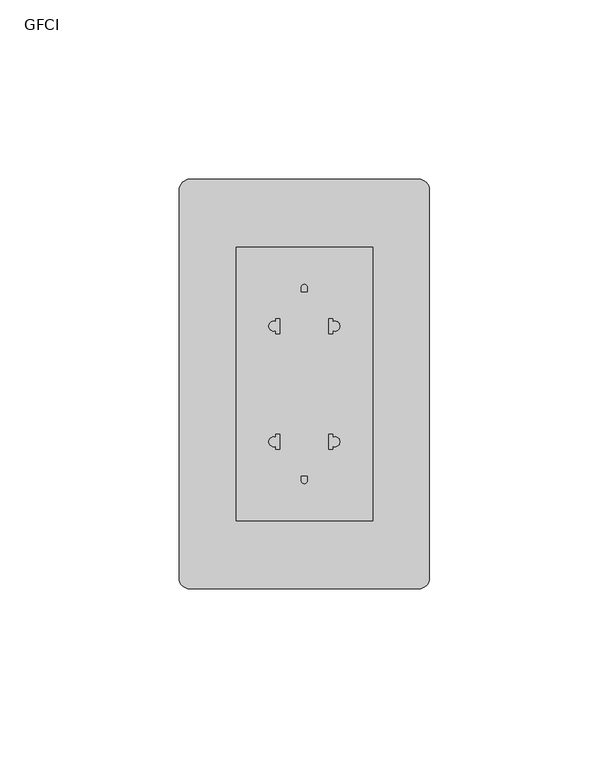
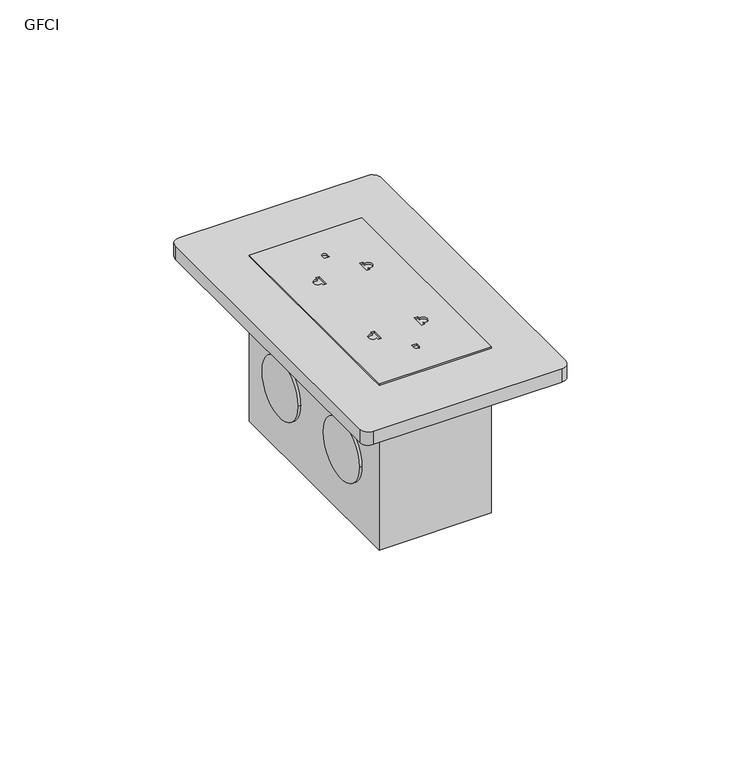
"""IFC4 building model written with IfcOpenShell, lengths in millimetres: proxy geometry, Tomacorriente doble 220V : GFCI."""

from ifc_helpers import new_model, si_unit, point, frame, frame_2d, origin, origin_with_axes, place, context, project, spatial, polyline, circle_curve, trimmed, segment, composite_curve, outline, extrude, source, transform, mapped, element, save


def gfci_180f1b41(model_context):
    return source(origin(), model_context, "Body", "SweptSolid", [
        extrude(outline(polyline([(19.05, 38.1), (19.05, -38.1), (-19.05, -38.1), (-19.05, 38.1), (19.05, 38.1)])), frame((0.0, 0.0, -53.975), z_axis=(0.0, 0.0, 1.0), x_axis=(1.0, 0.0, 0.0)), (0.0, 0.0, 1.0), 53.975),
        extrude(outline(composite_curve([segment(trimmed(circle_curve(frame_2d((31.8540846, 54.0790846)), 3.0709154), [point((31.8540846, 57.15))], [point((34.925, 54.0790846))], False, "CARTESIAN"), True, "CONTINUOUS"), segment(polyline([(34.925, 54.0790846), (34.925, -54.1686923)]), True, "CONTINUOUS"), segment(trimmed(circle_curve(frame_2d((31.9436923, -54.1686923)), 2.9813077), [point((34.925, -54.1686923))], [point((31.9436923, -57.15))], False, "CARTESIAN"), True, "CONTINUOUS"), segment(polyline([(31.9436923, -57.15), (-31.9571333, -57.15)]), True, "CONTINUOUS"), segment(trimmed(circle_curve(frame_2d((-31.9571333, -54.1821333)), 2.9678667), [point((-31.9571333, -57.15))], [point((-34.925, -54.1821333))], False, "CARTESIAN"), True, "CONTINUOUS"), segment(polyline([(-34.925, -54.1821333), (-34.925, 54.1178722)]), True, "CONTINUOUS"), segment(trimmed(circle_curve(frame_2d((-31.8928722, 54.1178722)), 3.0321278), [point((-34.925, 54.1178722))], [point((-31.8928722, 57.15))], False, "CARTESIAN"), True, "CONTINUOUS"), segment(polyline([(-31.8928722, 57.15), (31.8540846, 57.15)]), True, "CONTINUOUS")], self_intersect=False)), origin_with_axes(), (0.0, 0.0, 1.0), 4.7625),
        extrude(outline(composite_curve([segment(trimmed(circle_curve(frame_2d((18.0318198, -29.6371118)), 10.5), [point((7.5318198, -29.6371118))], [point((28.5318198, -29.6371118))], False, "CARTESIAN"), True, "CONTINUOUS"), segment(trimmed(circle_curve(frame_2d((18.0318198, -29.6371118)), 10.5), [point((28.5318198, -29.6371118))], [point((7.5318198, -29.6371118))], False, "CARTESIAN"), True, "CONTINUOUS")], self_intersect=False)), frame((-20.2979463, 0.0, 0.0), z_axis=(1.0, 0.0, 0.0), x_axis=(0.0, 1.0, 0.0)), (0.0, 0.0, 1.0), 1.2479463),
        extrude(outline(composite_curve([segment(trimmed(circle_curve(frame_2d((-18.0318198, -29.6371118)), 10.5), [point((-7.5318198, -29.6371118))], [point((-28.5318198, -29.6371118))], False, "CARTESIAN"), True, "CONTINUOUS"), segment(trimmed(circle_curve(frame_2d((-18.0318198, -29.6371118)), 10.5), [point((-28.5318198, -29.6371118))], [point((-7.5318198, -29.6371118))], False, "CARTESIAN"), True, "CONTINUOUS")], self_intersect=False)), frame((-20.2979463, 0.0, 0.0), z_axis=(1.0, 0.0, 0.0), x_axis=(0.0, 1.0, 0.0)), (0.0, 0.0, 1.0), 1.2479463),
        extrude(outline(composite_curve([segment(trimmed(circle_curve(frame_2d((18.0318198, -29.6371118)), 10.5), [point((7.5318198, -29.6371118))], [point((28.5318198, -29.6371118))], False, "CARTESIAN"), True, "CONTINUOUS"), segment(trimmed(circle_curve(frame_2d((18.0318198, -29.6371118)), 10.5), [point((28.5318198, -29.6371118))], [point((7.5318198, -29.6371118))], False, "CARTESIAN"), True, "CONTINUOUS")], self_intersect=False)), frame((19.05, 0.0, 0.0), z_axis=(1.0, 0.0, 0.0), x_axis=(0.0, 1.0, 0.0)), (0.0, 0.0, 1.0), 1.2479463),
        extrude(outline(composite_curve([segment(trimmed(circle_curve(frame_2d((-18.0318198, -29.6371118)), 10.5), [point((-7.5318198, -29.6371118))], [point((-28.5318198, -29.6371118))], False, "CARTESIAN"), True, "CONTINUOUS"), segment(trimmed(circle_curve(frame_2d((-18.0318198, -29.6371118)), 10.5), [point((-28.5318198, -29.6371118))], [point((-7.5318198, -29.6371118))], False, "CARTESIAN"), True, "CONTINUOUS")], self_intersect=False)), frame((19.05, 0.0, 0.0), z_axis=(1.0, 0.0, 0.0), x_axis=(0.0, 1.0, 0.0)), (0.0, 0.0, 1.0), 1.2479463),
        extrude(outline(polyline([(19.05, 38.1), (19.05, -38.1), (-19.05, -38.1), (-19.05, 38.1), (19.05, 38.1)]), holes=[composite_curve([segment(polyline([(-6.8329379, 18.2217821), (-7.9326921, 18.2217821), (-7.9326921, 17.3486572)]), True, "CONTINUOUS"), segment(trimmed(circle_curve(frame_2d((-8.5576921, 16.132249)), 1.3675796), [point((-7.9326921, 17.3486572))], [point((-7.9326921, 14.9158408))], True, "CARTESIAN"), True, "CONTINUOUS"), segment(polyline([(-7.9326921, 14.9158408), (-7.9326921, 14.0427159), (-6.8329379, 14.0427159), (-6.8329379, 18.2217821)]), True, "CONTINUOUS")], self_intersect=False), composite_curve([segment(polyline([(6.8329379, 18.2217821), (6.8329379, 14.0427159), (7.9326921, 14.0427159), (7.9326921, 14.9158408)]), True, "CONTINUOUS"), segment(trimmed(circle_curve(frame_2d((8.5576921, 16.132249)), 1.3675796), [point((7.9326921, 14.9158408))], [point((7.9326921, 17.3486572))], True, "CARTESIAN"), True, "CONTINUOUS"), segment(polyline([(7.9326921, 17.3486572), (7.9326921, 18.2217821), (6.8329379, 18.2217821)]), True, "CONTINUOUS")], self_intersect=False), composite_curve([segment(polyline([(-0.8392841, 26.9510518), (-0.8392841, 25.7658873), (0.8392841, 25.7658873), (0.8392841, 26.9510518)]), True, "CONTINUOUS"), segment(trimmed(circle_curve(frame_2d((0.0, 26.9510518)), 0.8392841), [point((0.8392841, 26.9510518))], [point((-0.8392841, 26.9510518))], True, "CARTESIAN"), True, "CONTINUOUS")], self_intersect=False), composite_curve([segment(polyline([(-6.8329379, -18.2217821), (-6.8329379, -14.0427159), (-7.9326921, -14.0427159), (-7.9326921, -14.9158408)]), True, "CONTINUOUS"), segment(trimmed(circle_curve(frame_2d((-8.5576921, -16.132249)), 1.3675796), [point((-7.9326921, -14.9158408))], [point((-7.9326921, -17.3486572))], True, "CARTESIAN"), True, "CONTINUOUS"), segment(polyline([(-7.9326921, -17.3486572), (-7.9326921, -18.2217821), (-6.8329379, -18.2217821)]), True, "CONTINUOUS")], self_intersect=False), composite_curve([segment(polyline([(6.8329379, -18.2217821), (7.9326921, -18.2217821), (7.9326921, -17.3486572)]), True, "CONTINUOUS"), segment(trimmed(circle_curve(frame_2d((8.5576921, -16.132249)), 1.3675796), [point((7.9326921, -17.3486572))], [point((7.9326921, -14.9158408))], True, "CARTESIAN"), True, "CONTINUOUS"), segment(polyline([(7.9326921, -14.9158408), (7.9326921, -14.0427159), (6.8329379, -14.0427159), (6.8329379, -18.2217821)]), True, "CONTINUOUS")], self_intersect=False), composite_curve([segment(trimmed(circle_curve(frame_2d((0.0, -26.9510518)), 0.8392841), [point((-0.8392841, -26.9510518))], [point((0.8392841, -26.9510518))], True, "CARTESIAN"), True, "CONTINUOUS"), segment(polyline([(0.8392841, -26.9510518), (0.8392841, -25.7658873), (-0.8392841, -25.7658873), (-0.8392841, -26.9510518)]), True, "CONTINUOUS")], self_intersect=False)]), frame((0.0, 0.0, 4.7625), z_axis=(0.0, 0.0, 1.0), x_axis=(1.0, 0.0, 0.0)), (0.0, 0.0, 1.0), 0.8740407),
    ])


if __name__ == "__main__":
    model = new_model("IFC4")
    model_context = context("Model", 3, world=origin())
    ifc_project = project(units=[si_unit("LENGTHUNIT", "METRE", prefix="MILLI")], contexts=[model_context])
    site = spatial("IfcSite", under=ifc_project)
    building = spatial("IfcBuilding", under=site)
    placement = place(None, origin())
    gfci_shape = gfci_180f1b41(model_context)
    element("IfcBuildingElementProxy", 1, Name="Tomacorriente doble 220V : GFCI", ObjectType="Tomacorriente doble 220V : GFCI", at=placement, inside=building, context=model_context, shape_type="MappedRepresentation", body=[
        mapped(gfci_shape, transform((0.0, 0.0, 0.0), x_axis=(1.0, 0.0, 0.0), y_axis=(0.0, 1.0, 0.0), z_axis=(0.0, 0.0, 1.0))),
    ])
    save(model, "model.ifc")
